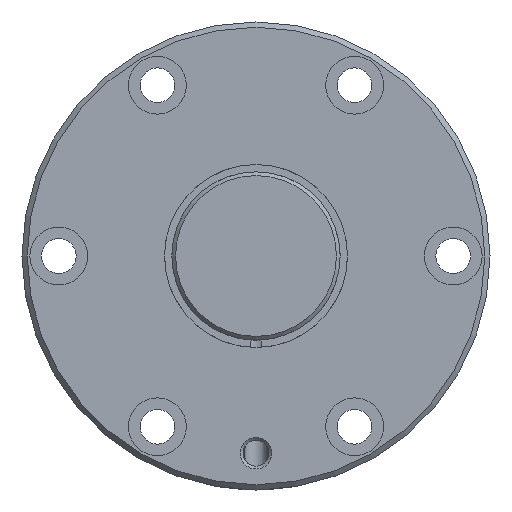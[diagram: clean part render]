
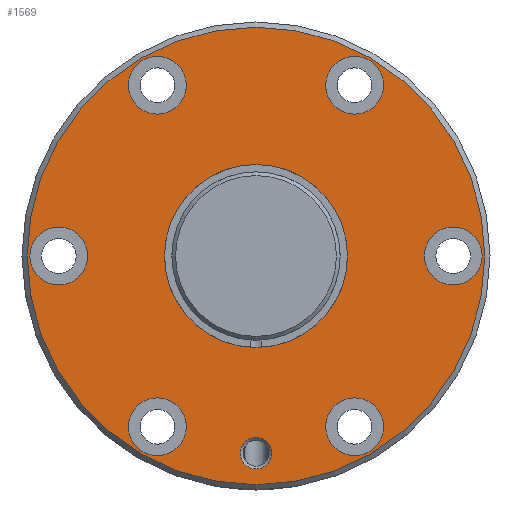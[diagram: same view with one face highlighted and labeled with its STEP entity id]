
A CAD part, left-side view. The second image highlights one B-rep face of the part: STEP entity #1569.
In plain terms, the highlighted planar face has unit normal (-1, 0, 0).
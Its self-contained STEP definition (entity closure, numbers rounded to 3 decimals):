
#267=ORIENTED_EDGE('',*,*,#629,.T.);
#268=ORIENTED_EDGE('',*,*,#661,.T.);
#269=ORIENTED_EDGE('',*,*,#662,.T.);
#270=ORIENTED_EDGE('',*,*,#663,.T.);
#271=ORIENTED_EDGE('',*,*,#664,.T.);
#272=ORIENTED_EDGE('',*,*,#665,.T.);
#273=ORIENTED_EDGE('',*,*,#666,.T.);
#274=ORIENTED_EDGE('',*,*,#667,.T.);
#275=ORIENTED_EDGE('',*,*,#660,.F.);
#629=EDGE_CURVE('',#830,#830,#974,.T.);
#660=EDGE_CURVE('',#861,#861,#977,.T.);
#661=EDGE_CURVE('',#862,#862,#978,.F.);
#662=EDGE_CURVE('',#863,#863,#979,.T.);
#663=EDGE_CURVE('',#864,#864,#980,.T.);
#664=EDGE_CURVE('',#865,#865,#981,.T.);
#665=EDGE_CURVE('',#866,#866,#982,.T.);
#666=EDGE_CURVE('',#867,#867,#983,.T.);
#667=EDGE_CURVE('',#868,#868,#984,.T.);
#830=VERTEX_POINT('',#2611);
#861=VERTEX_POINT('',#2757);
#862=VERTEX_POINT('',#2760);
#863=VERTEX_POINT('',#2762);
#864=VERTEX_POINT('',#2764);
#865=VERTEX_POINT('',#2766);
#866=VERTEX_POINT('',#2768);
#867=VERTEX_POINT('',#2770);
#868=VERTEX_POINT('',#2772);
#974=CIRCLE('',#1714,17.4);
#977=CIRCLE('',#1721,43.5);
#978=CIRCLE('',#1723,5.5);
#979=CIRCLE('',#1724,3.);
#980=CIRCLE('',#1725,5.5);
#981=CIRCLE('',#1726,5.5);
#982=CIRCLE('',#1727,5.5);
#983=CIRCLE('',#1728,5.5);
#984=CIRCLE('',#1729,5.5);
#1132=EDGE_LOOP('',(#267));
#1133=EDGE_LOOP('',(#268));
#1134=EDGE_LOOP('',(#269));
#1135=EDGE_LOOP('',(#270));
#1136=EDGE_LOOP('',(#271));
#1137=EDGE_LOOP('',(#272));
#1138=EDGE_LOOP('',(#273));
#1139=EDGE_LOOP('',(#274));
#1140=EDGE_LOOP('',(#275));
#1334=FACE_BOUND('',#1132,.T.);
#1335=FACE_BOUND('',#1133,.T.);
#1336=FACE_BOUND('',#1134,.T.);
#1337=FACE_BOUND('',#1135,.T.);
#1338=FACE_BOUND('',#1136,.T.);
#1339=FACE_BOUND('',#1137,.T.);
#1340=FACE_BOUND('',#1138,.T.);
#1341=FACE_BOUND('',#1139,.T.);
#1342=FACE_BOUND('',#1140,.T.);
#1507=PLANE('',#1722);
#1569=ADVANCED_FACE('',(#1334,#1335,#1336,#1337,#1338,#1339,#1340,#1341,
#1342),#1507,.T.);
#1714=AXIS2_PLACEMENT_3D('',#2610,#1994,#1995);
#1721=AXIS2_PLACEMENT_3D('',#2756,#2028,#2029);
#1722=AXIS2_PLACEMENT_3D('',#2758,#2030,#2031);
#1723=AXIS2_PLACEMENT_3D('',#2759,#2032,#2033);
#1724=AXIS2_PLACEMENT_3D('',#2761,#2034,#2035);
#1725=AXIS2_PLACEMENT_3D('',#2763,#2036,#2037);
#1726=AXIS2_PLACEMENT_3D('',#2765,#2038,#2039);
#1727=AXIS2_PLACEMENT_3D('',#2767,#2040,#2041);
#1728=AXIS2_PLACEMENT_3D('',#2769,#2042,#2043);
#1729=AXIS2_PLACEMENT_3D('',#2771,#2044,#2045);
#1994=DIRECTION('',(1.,0.,0.));
#1995=DIRECTION('',(0.,0.,-1.));
#2028=DIRECTION('',(1.,0.,0.));
#2029=DIRECTION('',(0.,0.,-1.));
#2030=DIRECTION('',(-1.,0.,0.));
#2031=DIRECTION('',(0.,0.,1.));
#2032=DIRECTION('',(-1.,0.,0.));
#2033=DIRECTION('',(0.,0.,1.));
#2034=DIRECTION('',(1.,0.,0.));
#2035=DIRECTION('',(0.,0.,-1.));
#2036=DIRECTION('',(1.,0.,0.));
#2037=DIRECTION('',(0.,0.,-1.));
#2038=DIRECTION('',(1.,0.,0.));
#2039=DIRECTION('',(0.,0.,-1.));
#2040=DIRECTION('',(1.,0.,0.));
#2041=DIRECTION('',(0.,0.,-1.));
#2042=DIRECTION('',(1.,0.,0.));
#2043=DIRECTION('',(0.,0.,-1.));
#2044=DIRECTION('',(1.,0.,0.));
#2045=DIRECTION('',(0.,0.,-1.));
#2610=CARTESIAN_POINT('',(0.,0.,0.));
#2611=CARTESIAN_POINT('',(0.,0.,-17.4));
#2756=CARTESIAN_POINT('',(0.,0.,0.));
#2757=CARTESIAN_POINT('',(0.,0.,-43.5));
#2758=CARTESIAN_POINT('',(0.,43.5,0.));
#2759=CARTESIAN_POINT('',(0.,37.5,0.));
#2760=CARTESIAN_POINT('',(0.,37.5,5.5));
#2761=CARTESIAN_POINT('',(0.,0.,-37.5));
#2762=CARTESIAN_POINT('',(0.,0.,-40.5));
#2763=CARTESIAN_POINT('',(0.,18.75,32.476));
#2764=CARTESIAN_POINT('',(0.,18.75,26.976));
#2765=CARTESIAN_POINT('',(0.,-18.75,-32.476));
#2766=CARTESIAN_POINT('',(0.,-18.75,-37.976));
#2767=CARTESIAN_POINT('',(0.,-18.75,32.476));
#2768=CARTESIAN_POINT('',(0.,-18.75,26.976));
#2769=CARTESIAN_POINT('',(0.,18.75,-32.476));
#2770=CARTESIAN_POINT('',(0.,18.75,-37.976));
#2771=CARTESIAN_POINT('',(0.,-37.5,0.));
#2772=CARTESIAN_POINT('',(0.,-37.5,-5.5));
